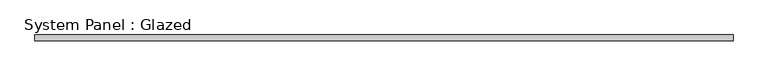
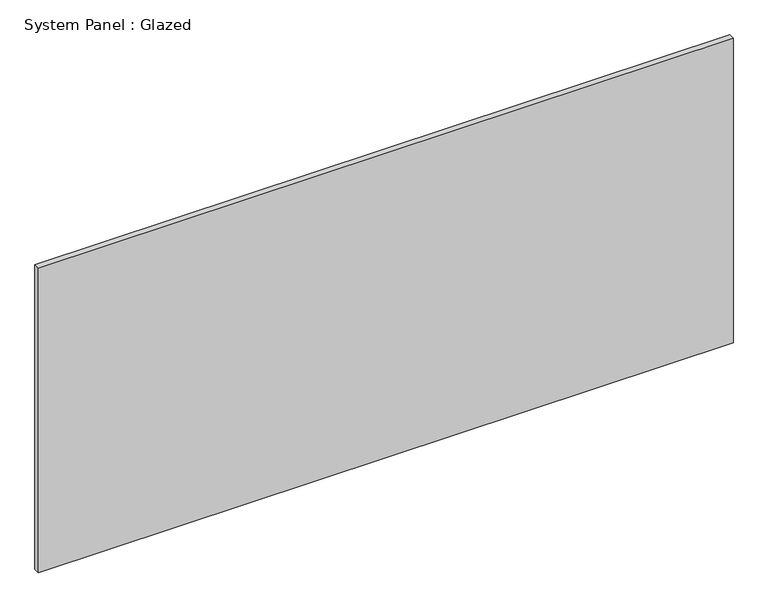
"""IFC4 building model written with IfcOpenShell, lengths in millimetres: plate geometry, System Panel : Glazed."""

from ifc_helpers import new_model, si_unit, origin, origin_with_axes, place, context, project, spatial, polyline, outline, extrude, source, transform, mapped, element, save


def system_panel_glazed_689e5248(model_context):
    return source(origin(), model_context, "Body", "SweptSolid", [
        extrude(outline(polyline([(1492.2499999, 19.05), (-1492.2499999, 19.05), (-1492.2499999, 44.45), (1492.2499999, 44.45), (1492.2499999, 19.05)])), origin_with_axes(), (0.0, 0.0, 1.0), 1382.9154135),
    ])


if __name__ == "__main__":
    model = new_model("IFC4")
    model_context = context("Model", 3, world=origin())
    ifc_project = project(units=[si_unit("LENGTHUNIT", "METRE", prefix="MILLI")], contexts=[model_context])
    site = spatial("IfcSite", under=ifc_project)
    building = spatial("IfcBuilding", under=site)
    placement = place(None, origin())
    system_panel_glazed_shape = system_panel_glazed_689e5248(model_context)
    element("IfcPlate", 1, ObjectType="System Panel : Glazed", at=placement, inside=building, context=model_context, shape_type="MappedRepresentation", body=[
        mapped(system_panel_glazed_shape, transform((0.0, 0.0, 0.0), x_axis=(1.0, 0.0, 0.0), y_axis=(0.0, 1.0, 0.0), z_axis=(0.0, 0.0, 1.0))),
    ])
    save(model, "model.ifc")
